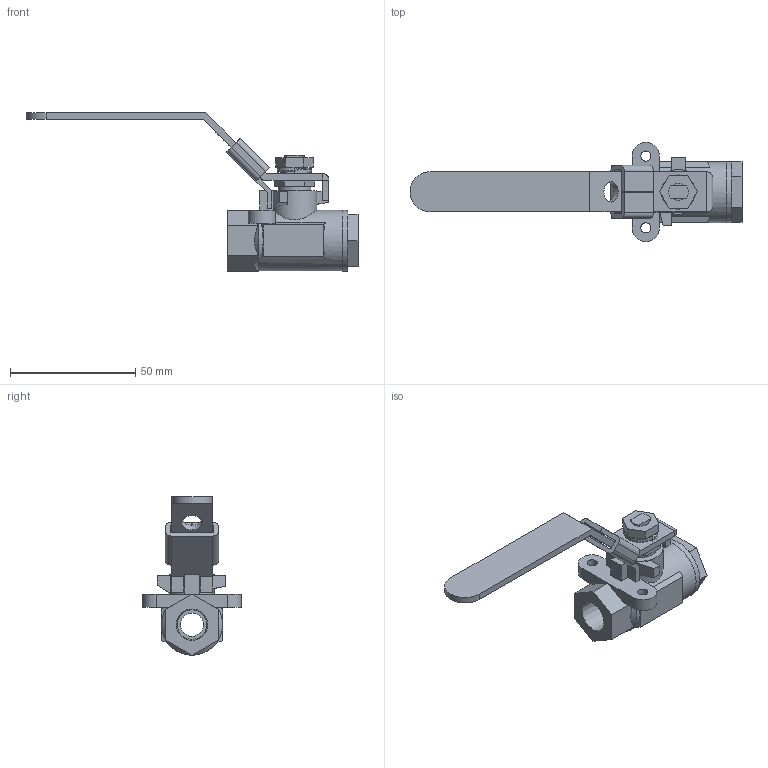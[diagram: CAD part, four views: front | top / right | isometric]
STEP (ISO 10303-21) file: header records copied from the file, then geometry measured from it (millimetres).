
FILE_DESCRIPTION((' '),'2;1');
FILE_NAME('N:\Technical Support\Private\Jomar Valve CAD\Ball Valves\CS and SS\2000N\.25 T-CS[SS]-2000N (100-951 [100-931])FusionCopy.stp.step','2017-05-26T15:43:14',(' '),(' '),' ','ACIS',' ');
FILE_SCHEMA(('CONFIG_CONTROL_DESIGN'));
Length unit declared in the file: inch
Products named in the file (9): N:\Technical Support\Private\Jomar Valve CAD\Ball Valves\CS and SS\2000N\.25 T-CS[SS]-2000N (100-951 [100-931])FusionCopy.stp.step; Body1; Body2; Body3; Body4; Body5; Body6; Body7; Body8
Assembly tree (8 placements, depth 2):
  N:\Technical Support\Private\Jomar Valve CAD\Ball Valves\CS and SS\2000N\.25 T-CS[SS]-2000N (100-951 [100-931])FusionCopy.stp.step
    Body1
    Body2
    Body3
    Body4
    Body5
    Body6
    Body7
    Body8
Bounding box: 132.38 x 39.55 x 63.21 mm (x, y, z)
Volume: 31585 mm3; surface area: 17774 mm2
Topology: 8 solids, 8 shells, 170 faces, 436 edges, 285 vertices
Faces by surface type: plane 111, cylinder 29, bspline 13, cone 13, torus 4
Full cylindrical faces by diameter (mm): 4.064 x2, 6.858 x1, 8.128 x1, 8.89 x1, 9.271 x2, 13.081 x1, 24.384 x2
Entity records: 6316 total; most frequent: CARTESIAN_POINT 974, DIRECTION 849, ORIENTED_EDGE 830, EDGE_CURVE 415, VECTOR 301, LINE 301, VERTEX_POINT 278, AXIS2_PLACEMENT_3D 274
